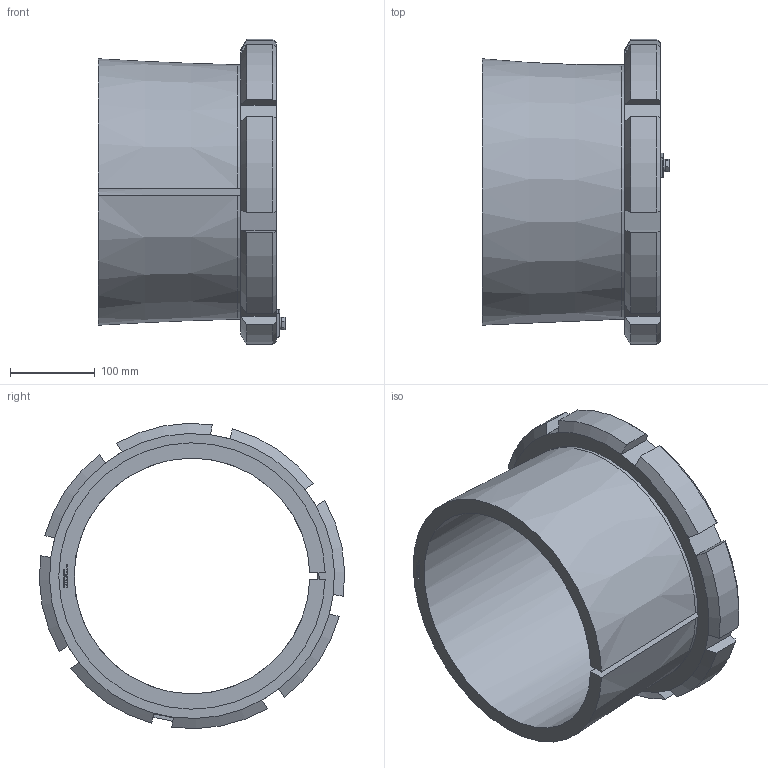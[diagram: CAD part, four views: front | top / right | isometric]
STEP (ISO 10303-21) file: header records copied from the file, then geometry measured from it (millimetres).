
FILE_DESCRIPTION( ( 'STEP AP203' ), ' ' );
FILE_NAME( 'p:/temp/worker_353/3748_4800/app_90_02016102822414403912943192d056f_000000_00_00_000000/format_0/BGL HA 3160 TL+22260K.stp', '2016-10-28T20:41:46', ( '' ), ( '' ), ' ', 'PARTsolutions', ' ' );
FILE_SCHEMA( ( 'CONFIG_CONTROL_DESIGN' ) );
Length unit declared in the file: millimetre
Products named in the file (5): BGL HA 3160 TL+22260K; _BGLHA3160TLB; _BGL HM 3060; _BGL MS 3060part; _BGL MS 3060HHS
Assembly tree (4 placements, depth 2):
  BGL HA 3160 TL+22260K
    _BGLHA3160TLB
    _BGL HM 3060
    _BGL MS 3060part
    _BGL MS 3060HHS
Bounding box: 221.05 x 359.85 x 359.85 mm (x, y, z)
Volume: 3865630.5 mm3; surface area: 565300.6 mm2
Topology: 4 solids, 4 shells, 335 faces, 873 edges, 573 vertices
Faces by surface type: plane 224, cylinder 74, cone 37
Full cylindrical faces by diameter (mm): 8 x9, 9 x1, 14.8 x1, 296 x1
Entity records: 10409 total; most frequent: CARTESIAN_POINT 2055, ORIENTED_EDGE 1694, DIRECTION 1663, EDGE_CURVE 847, LINE 575, VECTOR 575, VERTEX_POINT 570, AXIS2_PLACEMENT_3D 544
